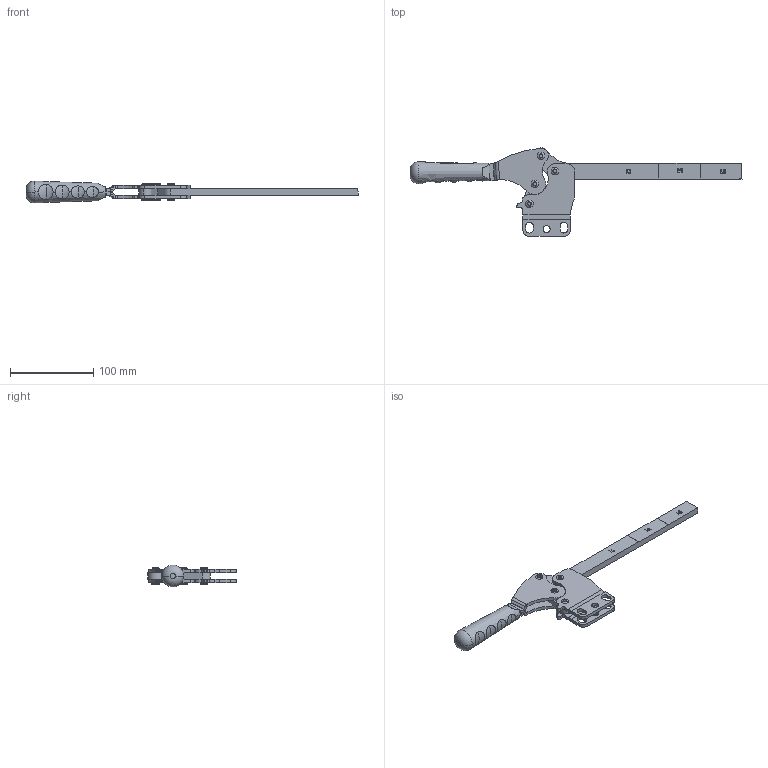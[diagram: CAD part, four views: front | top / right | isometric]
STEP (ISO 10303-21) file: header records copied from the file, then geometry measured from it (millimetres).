
FILE_DESCRIPTION (( 'STEP AP203' ), '1' );
FILE_NAME ('1264_D_L_MONTAJ.STEP', '2022-04-26T14:08:25', ( '' ), ( '' ), 'SwSTEP 2.0', 'SolidWorks 2020', '' );
FILE_SCHEMA (( 'CONFIG_CONTROL_DESIGN' ));
Length unit declared in the file: millimetre
Products named in the file (9): 6x21_PERﾇﾝN; C95_Yeni_Tutamak; 1264_LAMA_BASKI_KOLU; 1264_D_L_MONTAJ; 1264 Y-D Gövde; Aynalama1264 Y-D Gövde; 1264_HAREKET_KOLU; 1264_MAFSAL; Aynalama1264_HAREKET_KOLU
Assembly tree (11 placements, depth 2):
  1264_D_L_MONTAJ
    1264 Y-D Gövde
    1264_HAREKET_KOLU
    Aynalama1264 Y-D Gövde
    Aynalama1264_HAREKET_KOLU
    1264_MAFSAL
    6x21_PERﾇﾝN  x4
    1264_LAMA_BASKI_KOLU
    C95_Yeni_Tutamak
Bounding box: 399.4 x 106.12 x 26.35 mm (x, y, z)
Volume: 137522.1 mm3; surface area: 68456.2 mm2
Topology: 11 solids, 11 shells, 638 faces, 1653 edges, 1062 vertices
Faces by surface type: plane 383, cylinder 184, torus 36, bspline 31, sphere 2, cone 2
Entity records: 17157 total; most frequent: CARTESIAN_POINT 4488, ORIENTED_EDGE 2466, DIRECTION 2348, EDGE_CURVE 1233, LINE 816, VECTOR 816, VERTEX_POINT 798, AXIS2_PLACEMENT_3D 766
